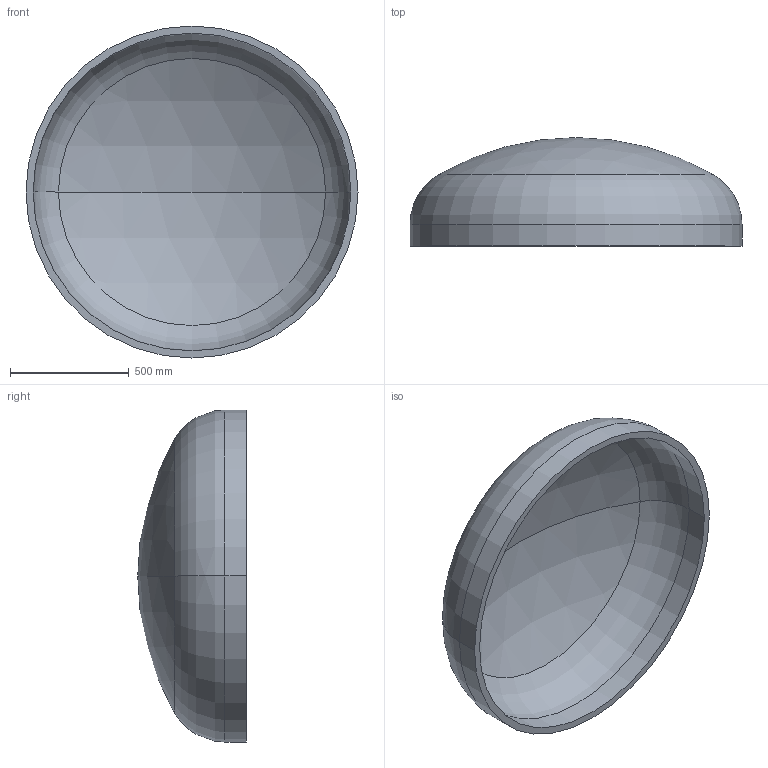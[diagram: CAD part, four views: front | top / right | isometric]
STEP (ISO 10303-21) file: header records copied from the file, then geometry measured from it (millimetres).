
FILE_DESCRIPTION (( 'STEP AP203' ), '1' );
FILE_NAME ('DIN 28013 Korbbogenform_-_Boden DIN 28013 - 1400 x 90 - I - s=30.step', '2016-07-01T10:14:09', ( '' ), ( '' ), 'SwSTEP 2.0', 'SolidWorks 2013', '' );
FILE_SCHEMA (( 'CONFIG_CONTROL_DESIGN' ));
Length unit declared in the file: millimetre
Products named in the file (1): DIN 28013 Korbbogenform_-_Boden DIN 28013 - 1400 x 90 - I - s=30
Bounding box: 1400 x 457.7 x 1400 mm (x, y, z)
Volume: 73769545.1 mm3; surface area: 5048972.5 mm2
Topology: 1 solids, 1 shells, 13 faces, 24 edges, 14 vertices
Faces by surface type: torus 4, cylinder 4, sphere 4, plane 1
Entity records: 407 total; most frequent: DIRECTION 72, CARTESIAN_POINT 52, ORIENTED_EDGE 48, AXIS2_PLACEMENT_3D 34, EDGE_CURVE 24, CIRCLE 20, VERTEX_POINT 14, EDGE_LOOP 14
